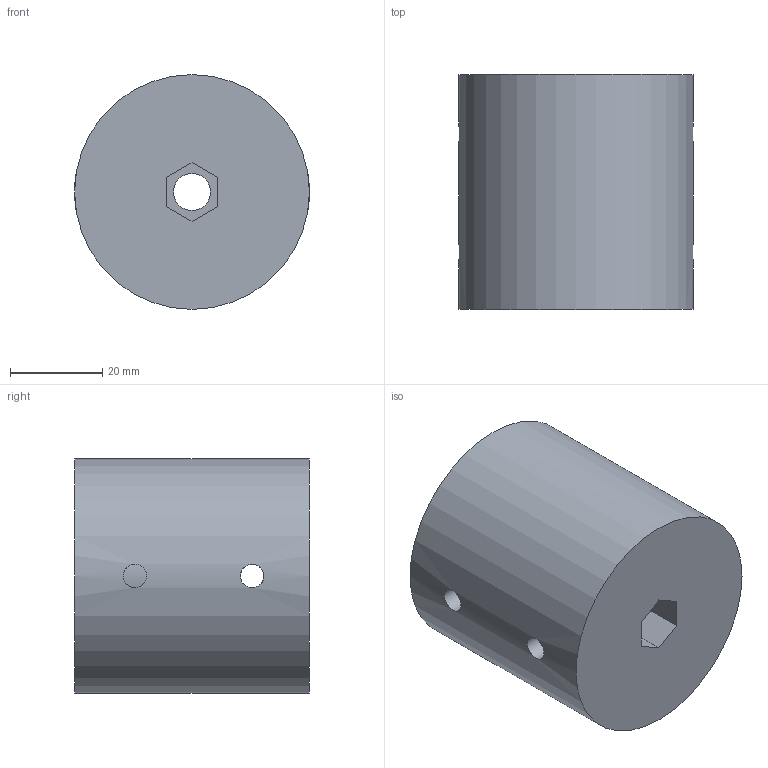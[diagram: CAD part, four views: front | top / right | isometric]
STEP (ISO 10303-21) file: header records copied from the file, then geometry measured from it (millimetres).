
FILE_DESCRIPTION(/* description */ ('STEP AP242 Edition 2','CAx-IF Rec.Pracs.---Representation and Presentation of Product Manufacturing Information (PMI)---4.0---2014-10-13','CAx-IF Rec.Pracs.---3D Tessellated Geometry---0.4---2014-09-14','2;1','CAx-IF Rec.Pracs.---User Defined Attributes---1.5---2016-08-15'),/* implementation_level */ '2;1');
FILE_NAME(/* name */ 'Assembly V2 - Part 9 (1)',/* time_stamp */ '2026-02-05T22:44:43Z',/* author */ (''),/* organization */ (''),/* preprocessor_version */ 'ST-DEVELOPER v20',/* originating_system */ 'ONSHAPE BY PTC INC, 1.210',/* authorisation */ ' ');
FILE_SCHEMA (('AP242_MANAGED_MODEL_BASED_3D_ENGINEERING_MIM_LF { 1 0 10303 442 3 1 4 }'));
Length unit declared in the file: metre
Products named in the file (1): Part 9
Bounding box: 50.8 x 50.8 x 50.8 mm (x, y, z)
Volume: 97690.8 mm3; surface area: 14630.8 mm2
Topology: 1 solids, 1 shells, 17 faces, 36 edges, 24 vertices
Faces by surface type: plane 9, cylinder 8
Full cylindrical faces by diameter (mm): 5.105 x4, 8 x1, 50.8 x1
Entity records: 508 total; most frequent: CARTESIAN_POINT 132, DIRECTION 66, ORIENTED_EDGE 60, EDGE_LOOP 32, FACE_BOUND 32, EDGE_CURVE 30, VERTEX_POINT 24, AXIS2_PLACEMENT_3D 24
